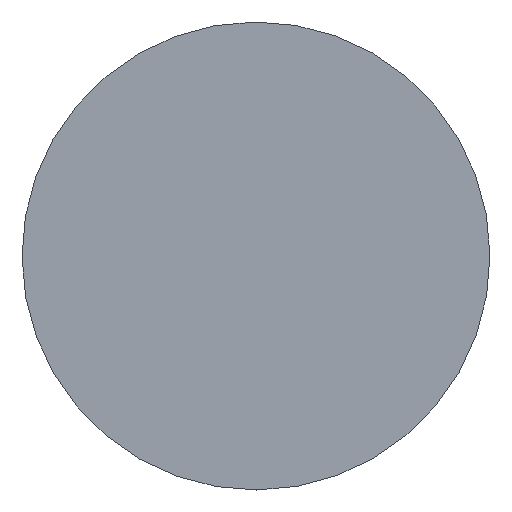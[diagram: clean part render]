
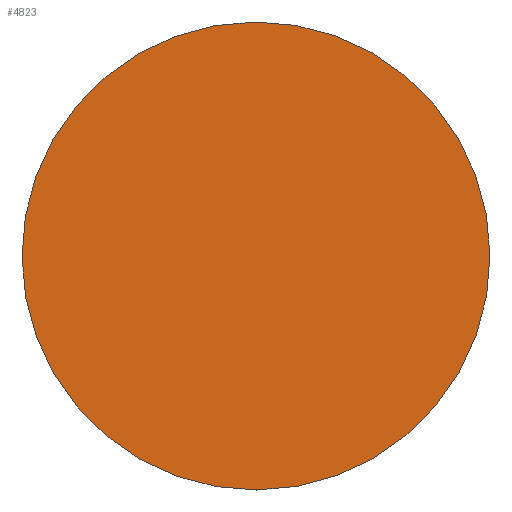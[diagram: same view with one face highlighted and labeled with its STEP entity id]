
A CAD part, top view. The second image highlights one B-rep face of the part: STEP entity #4823.
In plain terms, the highlighted planar face has unit normal (0, 0, 1) as drawn and (0, -1, 0) by its records, which use the part's own axes.
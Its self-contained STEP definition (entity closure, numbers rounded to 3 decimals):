
#396=PLANE('',#5238);
#454=FACE_OUTER_BOUND('',#715,.T.);
#715=EDGE_LOOP('',(#3245));
#1685=CIRCLE('',#5236,165.);
#2072=VERTEX_POINT('',#7477);
#2543=EDGE_CURVE('',#2072,#2072,#1685,.T.);
#3245=ORIENTED_EDGE('',*,*,#2543,.T.);
#4823=ADVANCED_FACE('',(#454),#396,.T.);
#5236=AXIS2_PLACEMENT_3D('',#7479,#5902,#5903);
#5238=AXIS2_PLACEMENT_3D('',#7481,#5906,#5907);
#5902=DIRECTION('center_axis',(0.,-1.,0.));
#5903=DIRECTION('ref_axis',(1.,0.,0.));
#5906=DIRECTION('center_axis',(0.,-1.,0.));
#5907=DIRECTION('ref_axis',(0.,0.,-1.));
#7477=CARTESIAN_POINT('',(-165.,0.,0.));
#7479=CARTESIAN_POINT('Origin',(0.,0.,0.));
#7481=CARTESIAN_POINT('Origin',(0.,0.,0.));
